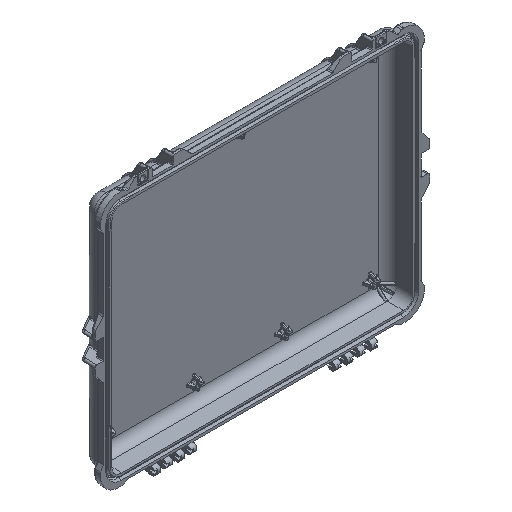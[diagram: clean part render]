
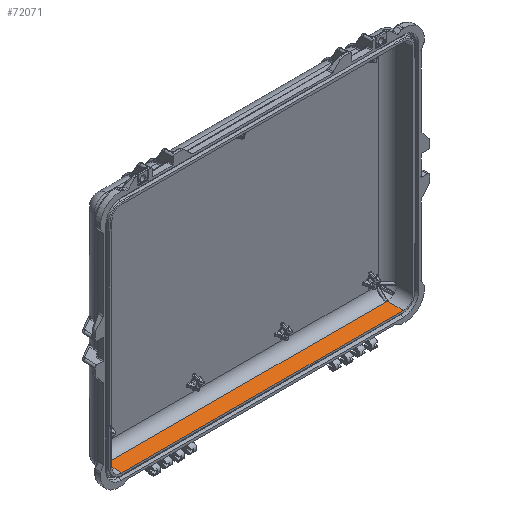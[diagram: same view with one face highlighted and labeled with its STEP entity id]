
A CAD part, isometric view. The second image highlights one B-rep face of the part: STEP entity #72071.
In plain terms, the highlighted planar face has unit normal (0, -0.035, 0.999).
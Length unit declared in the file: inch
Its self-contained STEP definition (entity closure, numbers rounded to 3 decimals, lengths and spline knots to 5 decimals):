
#453 = CARTESIAN_POINT ( 'NONE',  ( 10.21604, 1.12408, -8.42312 ) ) ;
#1052 = CARTESIAN_POINT ( 'NONE',  ( 11.155, 1.12408, -8.42312 ) ) ;
#4727 = CARTESIAN_POINT ( 'NONE',  ( 11.155, -0.00733, -8.46263 ) ) ;
#6797 = CARTESIAN_POINT ( 'NONE',  ( -10.21604, 1.12408, -8.42312 ) ) ;
#9211 = VERTEX_POINT ( 'NONE', #39921 ) ;
#9908 = DIRECTION ( 'NONE',  ( 0., 0.999, 0.035 ) ) ;
#15354 = CARTESIAN_POINT ( 'NONE',  ( -10.25664, -0.03866, -8.46372 ) ) ;
#17344 = ORIENTED_EDGE ( 'NONE', *, *, #70595, .F. ) ;
#22831 = VECTOR ( 'NONE', #63851, 39.37008 ) ;
#23556 = DIRECTION ( 'NONE',  ( 0.035, -0.999, -0.035 ) ) ;
#24884 = LINE ( 'NONE', #1052, #55915 ) ;
#27394 = CARTESIAN_POINT ( 'NONE',  ( 10.25529, 0., -8.46237 ) ) ;
#28728 = EDGE_CURVE ( 'NONE', #42569, #43699, #24884, .T. ) ;
#29687 = VECTOR ( 'NONE', #23556, 39.37008 ) ;
#33797 = CARTESIAN_POINT ( 'NONE',  ( 11.155, 0., -8.46237 ) ) ;
#34917 = DIRECTION ( 'NONE',  ( 0., 0.035, -0.999 ) ) ;
#37269 = AXIS2_PLACEMENT_3D ( 'NONE', #4727, #34917, #9908 ) ;
#38797 = LINE ( 'NONE', #15354, #22831 ) ;
#39921 = CARTESIAN_POINT ( 'NONE',  ( -10.25529, 0., -8.46237 ) ) ;
#42569 = VERTEX_POINT ( 'NONE', #6797 ) ;
#43699 = VERTEX_POINT ( 'NONE', #453 ) ;
#43873 = EDGE_CURVE ( 'NONE', #65962, #9211, #46501, .T. ) ;
#46501 = LINE ( 'NONE', #33797, #74592 ) ;
#50328 = DIRECTION ( 'NONE',  ( 1., 0., 0. ) ) ;
#55915 = VECTOR ( 'NONE', #50328, 39.37008 ) ;
#56895 = DIRECTION ( 'NONE',  ( -1., 0., 0. ) ) ;
#58579 = LINE ( 'NONE', #70935, #29687 ) ;
#60279 = ORIENTED_EDGE ( 'NONE', *, *, #64959, .F. ) ;
#63851 = DIRECTION ( 'NONE',  ( 0.035, 0.999, 0.035 ) ) ;
#64167 = ORIENTED_EDGE ( 'NONE', *, *, #28728, .F. ) ;
#64959 = EDGE_CURVE ( 'NONE', #9211, #42569, #38797, .T. ) ;
#65962 = VERTEX_POINT ( 'NONE', #27394 ) ;
#70595 = EDGE_CURVE ( 'NONE', #43699, #65962, #58579, .T. ) ;
#70935 = CARTESIAN_POINT ( 'NONE',  ( 10.25664, -0.03866, -8.46372 ) ) ;
#71146 = PLANE ( 'NONE',  #37269 ) ;
#72071 = ADVANCED_FACE ( 'NONE', ( #77873 ), #71146, .F. ) ;
#74592 = VECTOR ( 'NONE', #56895, 39.37008 ) ;
#76674 = EDGE_LOOP ( 'NONE', ( #60279, #77670, #17344, #64167 ) ) ;
#77670 = ORIENTED_EDGE ( 'NONE', *, *, #43873, .F. ) ;
#77873 = FACE_OUTER_BOUND ( 'NONE', #76674, .T. ) ;
